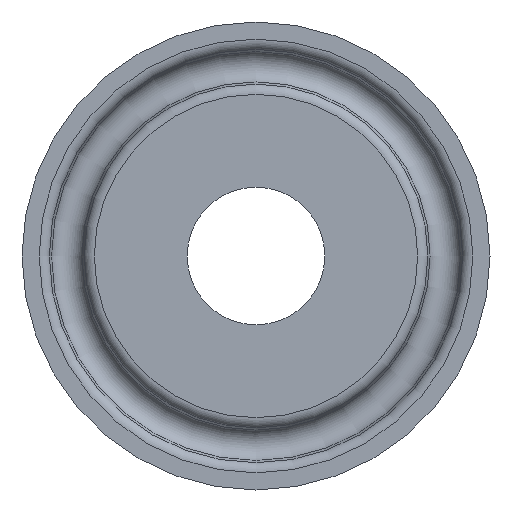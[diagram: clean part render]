
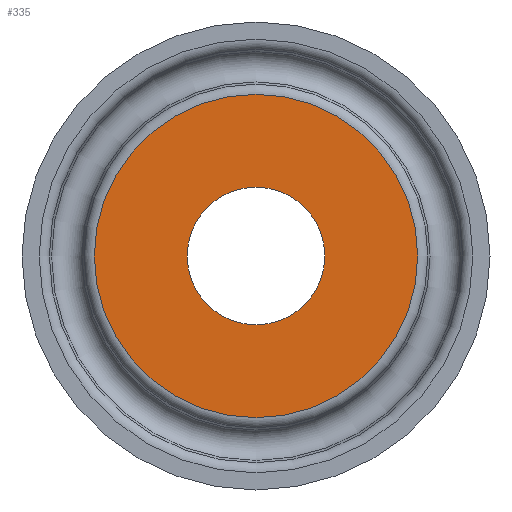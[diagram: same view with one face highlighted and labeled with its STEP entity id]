
A CAD part, front view. The second image highlights one B-rep face of the part: STEP entity #335.
In plain terms, the highlighted planar face has unit normal (0, -1, 0).
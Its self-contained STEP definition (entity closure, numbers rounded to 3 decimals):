
#301=CARTESIAN_POINT('',(11.747,0.,0.0));
#302=VERTEX_POINT('',#301);
#303=CARTESIAN_POINT('',(0.0,0.,0.0));
#304=DIRECTION('',(0.0,-1.0,0.0));
#305=DIRECTION('',(1.0,0.0,0.0));
#306=AXIS2_PLACEMENT_3D('',#303,#304,#305);
#307=CIRCLE('',#306,11.747);
#308=EDGE_CURVE('',#302,#302,#307,.T.);
#316=CARTESIAN_POINT('',(8.374,0.,0.0));
#317=DIRECTION('',(0.0,-1.0,0.0));
#318=DIRECTION('',(0.0,0.0,-1.0));
#319=AXIS2_PLACEMENT_3D('',#316,#317,#318);
#320=PLANE('',#319);
#321=ORIENTED_EDGE('',*,*,#308,.T.);
#322=EDGE_LOOP('',(#321));
#323=FACE_OUTER_BOUND('',#322,.T.);
#324=CARTESIAN_POINT('',(5.,0.,0.0));
#325=VERTEX_POINT('',#324);
#326=CARTESIAN_POINT('',(0.0,0.,0.0));
#327=DIRECTION('',(0.0,-1.0,0.0));
#328=DIRECTION('',(1.0,0.0,0.0));
#329=AXIS2_PLACEMENT_3D('',#326,#327,#328);
#330=CIRCLE('',#329,5.);
#331=EDGE_CURVE('',#325,#325,#330,.T.);
#332=ORIENTED_EDGE('',*,*,#331,.F.);
#333=EDGE_LOOP('',(#332));
#334=FACE_BOUND('',#333,.T.);
#335=ADVANCED_FACE('',(#323,#334),#320,.T.);
